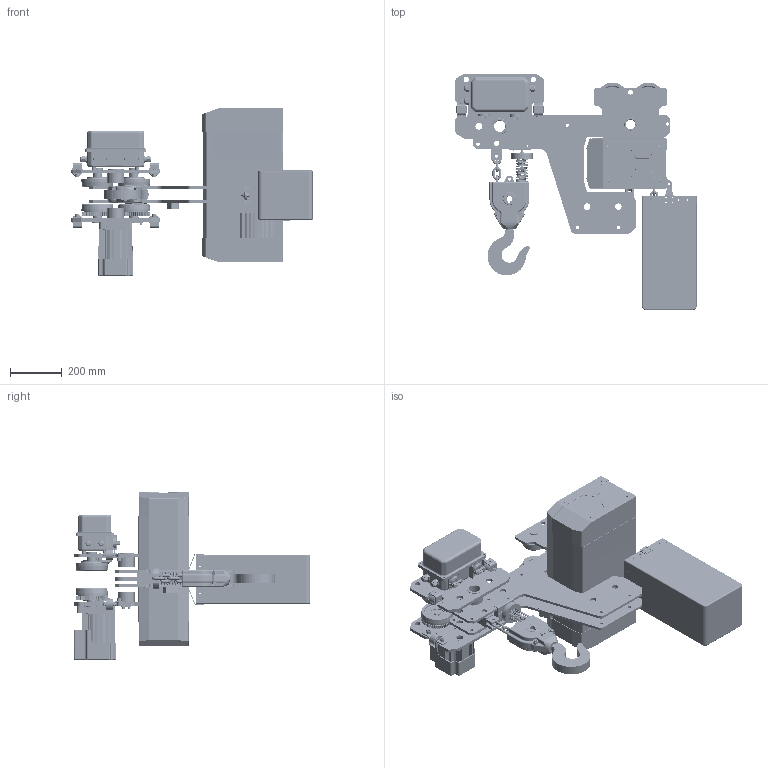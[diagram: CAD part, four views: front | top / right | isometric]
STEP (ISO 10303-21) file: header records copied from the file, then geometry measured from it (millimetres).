
FILE_DESCRIPTION(/* description */ ('CAx-IF Rec.Pracs.---Representation and Presentation of Product Manufacturing Information (PMI)---4.0---2014-10-13','CAx-IF Rec.Pracs.---3D Tessellated Geometry---0.4---2014-09-14','2;1'),/* implementation_level */ '2;1');
FILE_NAME(/* name */ 'YJ 03-02 超低吊',/* time_stamp */ '2026-06-12T13:25:16+08:00',/* author */ (''),/* organization */ (''),/* preprocessor_version */ 'ST-DEVELOPER v16.7',/* originating_system */ $,/* authorisation */ $);
FILE_SCHEMA (('AP242_MANAGED_MODEL_BASED_3D_ENGINEERING_MIM_LF { 1 0 10303 442 20130219 1 4 }'));
Products named in the file (1): YJ 03-02 超低吊
Bounding box: 927.82 x 908.97 x 645.3 mm (x, y, z)
Volume: 45765273.5 mm3; surface area: 5009393.2 mm2
Topology: 40 solids, 66 shells, 7046 faces, 18066 edges, 11116 vertices
Faces by surface type: plane 2638, cylinder 2308, bspline 1067, torus 602, cone 308, sphere 123
Full cylindrical faces by diameter (mm): 1.35 x2, 1.5 x2, 2 x6, 2.1 x1, 2.4 x4, 2.5 x4, 3 x3, 3.2 x4, 3.4 x8, 3.5 x5, 5 x8, 5.326 x2, 5.5 x32, 5.7 x4, 5.795 x10, 6 x7, 6.2 x1, 6.3 x8, 6.4 x10, 6.5 x6, 6.6 x8, 6.8 x4, 7 x1, 7.46 x3, 8 x1, 8.5 x4, 8.8 x4, 9 x2, 9.045 x2, 9.732 x20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
Entity records: 235551 total; most frequent: CARTESIAN_POINT 71427, ORIENTED_EDGE 33850, DIRECTION 31326, EDGE_CURVE 16925, AXIS2_PLACEMENT_3D 11350, VERTEX_POINT 10875, LINE 8642, VECTOR 8642
